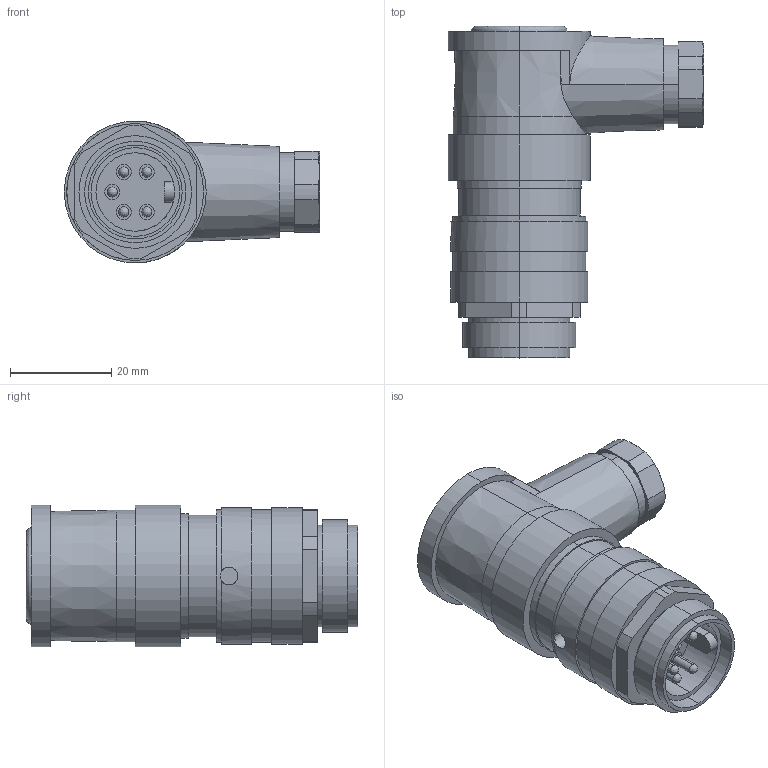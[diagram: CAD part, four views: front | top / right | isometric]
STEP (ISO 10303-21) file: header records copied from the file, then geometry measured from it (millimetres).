
FILE_DESCRIPTION (( 'STEP AP203' ), '1' );
FILE_NAME ('BS4251.step', '2013-02-06T21:22:32', ( 'Turck User' ), ( '' ), 'SwSTEP 2.0', 'SolidWorks 2012', '' );
FILE_SCHEMA (( 'CONFIG_CONTROL_DESIGN' ));
Length unit declared in the file: millimetre
Products named in the file (1): BS4251
Bounding box: 50.4 x 65.5 x 28 mm (x, y, z)
Volume: 36812.5 mm3; surface area: 10801.4 mm2
Topology: 1 solids, 1 shells, 144 faces, 344 edges, 221 vertices
Faces by surface type: cylinder 75, plane 47, cone 13, bspline 9
Entity records: 4559 total; most frequent: CARTESIAN_POINT 1092, DIRECTION 761, ORIENTED_EDGE 668, EDGE_CURVE 334, AXIS2_PLACEMENT_3D 318, VERTEX_POINT 221, CIRCLE 182, EDGE_LOOP 173
